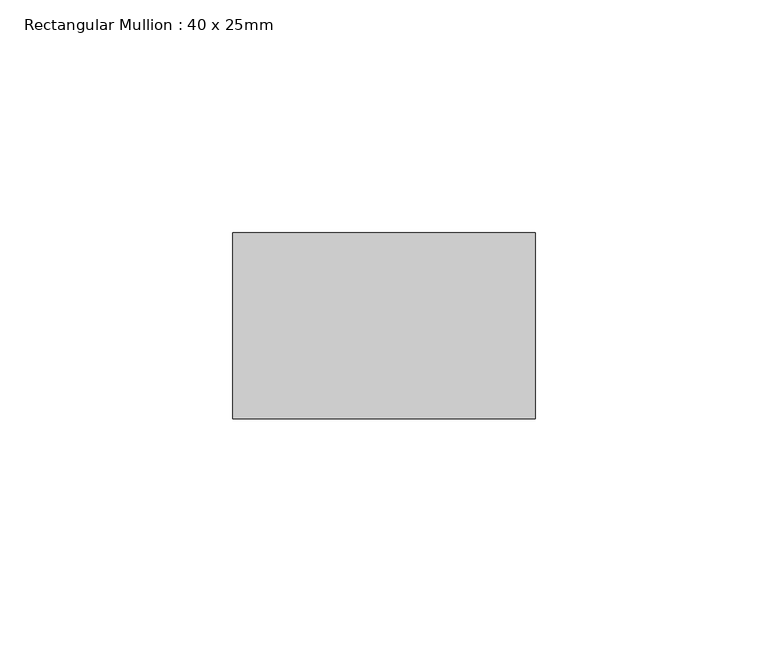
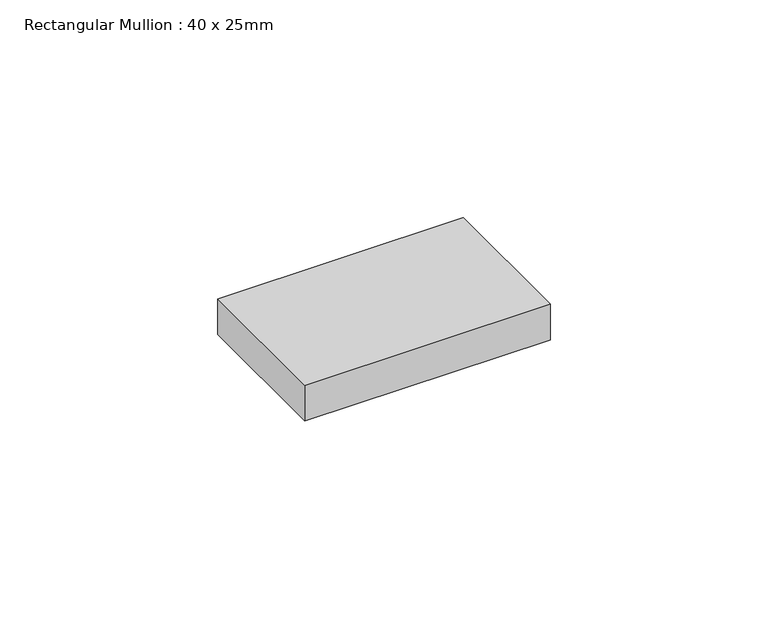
"""IFC4 building model written with IfcOpenShell, lengths in millimetres: member geometry, Rectangular Mullion : 40 x 25mm."""

from ifc_helpers import new_model, si_unit, frame, origin, place, context, project, spatial, polyline, outline, extrude, source, transform, mapped, element, save


def rectangular_mullion_40_x_25mm_a0238fa8(model_context):
    return source(origin(), model_context, "Body", "SweptSolid", [
        extrude(outline(polyline([(40.0, -20.0), (40.0, -60.0), (-25.0, -60.0), (-25.0, -20.0), (40.0, -20.0)])), frame((0.0, 0.0, -10.0), z_axis=(0.0, 0.0, 1.0), x_axis=(1.0, 0.0, 0.0)), (0.0, 0.0, 1.0), 10.0),
    ])


if __name__ == "__main__":
    model = new_model("IFC4")
    model_context = context("Model", 3, world=origin())
    ifc_project = project(units=[si_unit("LENGTHUNIT", "METRE", prefix="MILLI")], contexts=[model_context])
    site = spatial("IfcSite", under=ifc_project)
    building = spatial("IfcBuilding", under=site)
    placement = place(None, origin())
    rectangular_mullion_40_x_25mm_shape = rectangular_mullion_40_x_25mm_a0238fa8(model_context)
    element("IfcMember", 1, ObjectType="Rectangular Mullion : 40 x 25mm", at=placement, inside=building, context=model_context, shape_type="MappedRepresentation", body=[
        mapped(rectangular_mullion_40_x_25mm_shape, transform((0.0, 0.0, 0.0), x_axis=(1.0, 0.0, 0.0), y_axis=(0.0, 1.0, 0.0), z_axis=(0.0, 0.0, 1.0))),
    ])
    save(model, "model.ifc")
